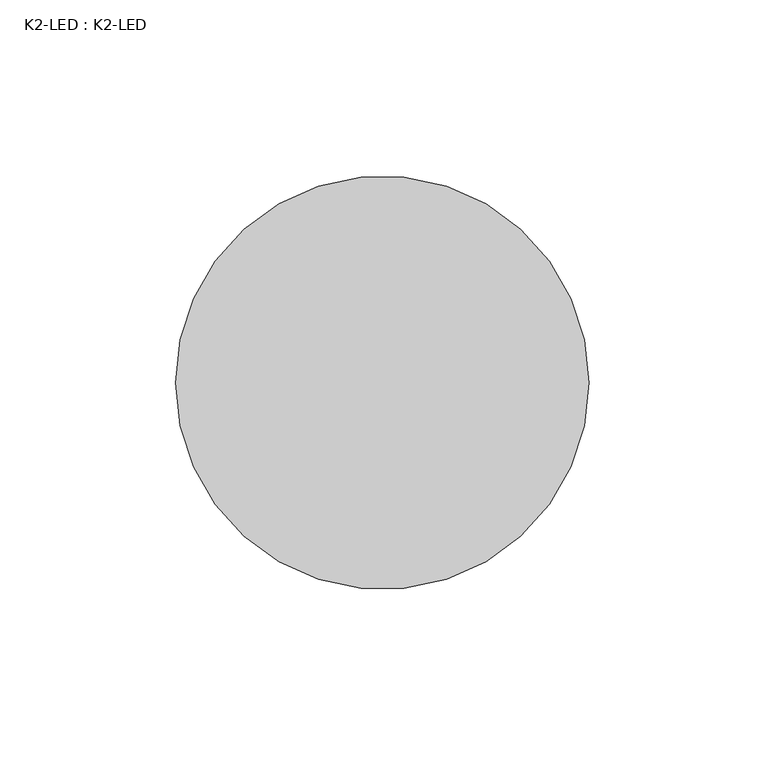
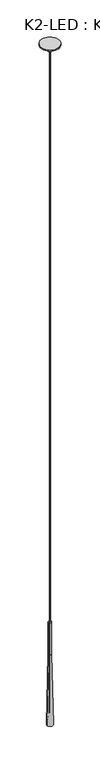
"""IFC4 building model written with IfcOpenShell, lengths in millimetres: light fixture geometry, K2-LED : K2-LED."""

from ifc_helpers import new_model, si_unit, point, frame, origin, origin_2d, place, context, project, spatial, polyline, circle_curve, ellipse_curve, trimmed, segment, composite_curve, outline, extrude, source, transform, mapped, element, save
from ifc_brep_helpers import plane_surface, cylinder_surface, revolved_surface, advanced_brep


def k2_led_k2_led_75b36184(model_context):
    return source(origin(), model_context, "Body", "SolidModel", [
        extrude(outline(composite_curve([segment(trimmed(circle_curve(origin_2d(), 3.175), [point((-3.175, 0.0))], [point((3.175, 0.0))], False, "CARTESIAN"), True, "CONTINUOUS"), segment(trimmed(circle_curve(origin_2d(), 3.175), [point((3.175, 0.0))], [point((-3.175, 0.0))], False, "CARTESIAN"), True, "CONTINUOUS")], self_intersect=False)), frame((0.0, 0.0, -1854.2), z_axis=(0.0, 0.0, 1.0), x_axis=(1.0, 0.0, 0.0)), (0.0, 0.0, 1.0), 4241.8),
        advanced_brep(
        [(-3.2496917, 0.0, -1828.8), (3.2496917, 0.0, -1828.8), (17.692089, 0.0, -1917.7), (-17.692089, 0.0, -1917.7), (-14.4423973, 0.0, -1917.7), (14.4423973, 0.0, -1917.7), (0.0, 0.0, -1828.8), (0.0, 0.0, -1828.8)],
        [
            (0, 1, circle_curve(frame((0.0, 0.0, -1828.8), z_axis=(0.0, 0.0, -1.0), x_axis=(1.0, 0.0, 0.0)), 3.2496917)),
            (1, 2),
            (2, 3, circle_curve(frame((0.0, 0.0, -1917.7), z_axis=(0.0, 0.0, 1.0), x_axis=(1.0, 0.0, 0.0)), 17.692089)),
            (3, 0),
            (1, 0, circle_curve(frame((0.0, 0.0, -1828.8), z_axis=(0.0, 0.0, -1.0), x_axis=(1.0, 0.0, 0.0)), 3.2496917)),
            (3, 2, circle_curve(frame((0.0, 0.0, -1917.7), z_axis=(0.0, 0.0, 1.0), x_axis=(1.0, 0.0, 0.0)), 17.692089)),
            (4, 5, circle_curve(frame((0.0, 0.0, -1917.7), z_axis=(0.0, 0.0, -1.0), x_axis=(1.0, 0.0, 0.0)), 14.4423973)),
            (5, 6),
            (6, 4),
            (5, 4, circle_curve(frame((0.0, 0.0, -1917.7), z_axis=(0.0, 0.0, -1.0), x_axis=(1.0, 0.0, 0.0)), 14.4423973)),
            (2, 5),
            (4, 3),
            (7, 1),
            (0, 7),
        ],
        [
            revolved_surface(polyline([(17.692089, 0.0, -1917.7), (3.2496917, 0.0, -1828.8)]), (0.0, 0.0, -1930.4), (0.0, 0.0, 1.0)),
            revolved_surface(polyline([(0.0, 0.0, -1828.8), (14.4423973, 0.0, -1917.7)]), (0.0, 0.0, -1930.4), (0.0, 0.0, 1.0)),
            plane_surface(frame((0.0, 0.0, -1917.7), z_axis=(0.0, 0.0, -1.0), x_axis=(1.0, 0.0, 0.0))),
            plane_surface(frame((0.0, 0.0, -1828.8), z_axis=(0.0, 0.0, 1.0), x_axis=(1.0, 0.0, 0.0))),
        ],
        [
            (0, [[1, 2, 3, 4]]),
            (0, [[5, -4, 6, -2]]),
            (1, [[7, 8, 9]]),
            (1, [[10, -9, -8]]),
            (2, [[-3, 11, -7, 12]]),
            (2, [[-6, -12, -10, -11]]),
            (3, [[13, -1, 14]]),
            (3, [[-14, -5, -13]]),
        ],
    ),
        advanced_brep(
        [(-9.525, 0.0, -1481.7266408), (9.525, 0.0, -1481.7266408), (19.05, 0.0, -1930.4), (-19.05, 0.0, -1930.4), (-9.525, 0.0, -1276.35), (9.525, 0.0, -1276.35), (-3.175, 0.0, -1270.0), (3.175, 0.0, -1270.0), (-3.175, 0.0, -1332.2025521), (3.175, 0.0, -1332.2025521), (15.8742846, 0.0, -1930.4), (-15.8742846, 0.0, -1930.4)],
        [
            (0, 1, circle_curve(frame((0.0, 0.0, -1481.7266408), z_axis=(0.0, 0.0, -1.0), x_axis=(1.0, 0.0, 0.0)), 9.525)),
            (1, 2),
            (2, 3, circle_curve(frame((0.0, 0.0, -1930.4), z_axis=(0.0, 0.0, 1.0), x_axis=(1.0, 0.0, 0.0)), 19.05)),
            (3, 0),
            (1, 0, circle_curve(frame((0.0, 0.0, -1481.7266408), z_axis=(0.0, 0.0, -1.0), x_axis=(1.0, 0.0, 0.0)), 9.525)),
            (3, 2, circle_curve(frame((0.0, 0.0, -1930.4), z_axis=(0.0, 0.0, 1.0), x_axis=(1.0, 0.0, 0.0)), 19.05)),
            (4, 5, circle_curve(frame((0.0, 0.0, -1276.35), z_axis=(0.0, 0.0, -1.0), x_axis=(1.0, 0.0, 0.0)), 9.525)),
            (5, 1),
            (0, 4),
            (5, 4, circle_curve(frame((0.0, 0.0, -1276.35), z_axis=(0.0, 0.0, -1.0), x_axis=(1.0, 0.0, 0.0)), 9.525)),
            (6, 7, circle_curve(frame((0.0, 0.0, -1270.0), z_axis=(0.0, 0.0, -1.0), x_axis=(1.0, 0.0, 0.0)), 3.175)),
            (7, 5, circle_curve(frame((3.175, 0.0, -1276.35), z_axis=(0.0, 1.0, 0.0), x_axis=(1.0, 0.0, 0.0)), 6.35)),
            (4, 6, circle_curve(frame((-3.175, 0.0, -1276.35), z_axis=(0.0, 1.0, 0.0), x_axis=(-1.0, 0.0, 0.0)), 6.35)),
            (7, 6, circle_curve(frame((0.0, 0.0, -1270.0), z_axis=(0.0, 0.0, -1.0), x_axis=(1.0, 0.0, 0.0)), 3.175)),
            (8, 9, circle_curve(frame((0.0, 0.0, -1332.2025521), z_axis=(0.0, 0.0, -1.0), x_axis=(1.0, 0.0, 0.0)), 3.175)),
            (9, 7),
            (6, 8),
            (9, 8, circle_curve(frame((0.0, 0.0, -1332.2025521), z_axis=(0.0, 0.0, -1.0), x_axis=(1.0, 0.0, 0.0)), 3.175)),
            (2, 10),
            (10, 11, circle_curve(frame((0.0, 0.0, -1930.4), z_axis=(0.0, 0.0, 1.0), x_axis=(1.0, 0.0, 0.0)), 15.8742846)),
            (11, 3),
            (11, 10, circle_curve(frame((0.0, 0.0, -1930.4), z_axis=(0.0, 0.0, 1.0), x_axis=(1.0, 0.0, 0.0)), 15.8742846)),
            (10, 9),
            (8, 11),
        ],
        [
            revolved_surface(polyline([(19.05, 0.0, -1930.4), (9.525, 0.0, -1481.7266408)]), (0.0, 0.0, -1930.4), (0.0, 0.0, 1.0)),
            cylinder_surface(frame((0.0, 0.0, -1930.4), z_axis=(0.0, 0.0, 1.0), x_axis=(1.0, 0.0, 0.0)), 9.525),
            revolved_surface(trimmed(ellipse_curve(frame((3.175, 0.0, -1276.35), z_axis=(0.0, -1.0, 0.0), x_axis=(1.0, 0.0, 0.0)), 6.35, 6.35), [point((9.525, 0.0, -1276.35))], [point((3.175, 0.0, -1270.0))], True, "CARTESIAN"), (0.0, 0.0, -1930.4), (0.0, 0.0, 1.0)),
            revolved_surface(polyline([(3.175, 0.0, -1270.0), (3.175, 0.0, -1332.2025521)]), (0.0, 0.0, -1930.4), (0.0, 0.0, 1.0)),
            plane_surface(frame((0.0, 0.0, -1930.4), z_axis=(0.0, 0.0, -1.0), x_axis=(1.0, 0.0, 0.0))),
            revolved_surface(polyline([(3.175, 0.0, -1332.2025521), (15.8742846, 0.0, -1930.4)]), (0.0, 0.0, -1930.4), (0.0, 0.0, 1.0)),
        ],
        [
            (0, [[1, 2, 3, 4]]),
            (0, [[5, -4, 6, -2]]),
            (1, [[7, 8, -1, 9]]),
            (1, [[10, -9, -5, -8]]),
            (2, [[11, 12, -7, 13]]),
            (2, [[14, -13, -10, -12]]),
            (3, [[15, 16, -11, 17]]),
            (3, [[18, -17, -14, -16]]),
            (4, [[-3, 19, 20, 21]]),
            (4, [[-6, -21, 22, -19]]),
            (5, [[-20, 23, -15, 24]]),
            (5, [[-22, -24, -18, -23]]),
        ],
    ),
        advanced_brep(
        [(-58.7375, 0.0, 2438.4), (58.7375, 0.0, 2438.4), (-6.35, 0.0, 2387.6), (6.35, 0.0, 2387.6), (6.35, 0.0, 2432.05), (-6.35, 0.0, 2432.05), (-58.7375, 0.0, 2432.05), (58.7375, 0.0, 2432.05)],
        [
            (0, 1, circle_curve(frame((0.0, 0.0, 2438.4), z_axis=(0.0, 0.0, 1.0), x_axis=(1.0, 0.0, 0.0)), 58.7375)),
            (1, 0, circle_curve(frame((0.0, 0.0, 2438.4), z_axis=(0.0, 0.0, 1.0), x_axis=(1.0, 0.0, 0.0)), 58.7375)),
            (2, 3, circle_curve(frame((0.0, 0.0, 2387.6), z_axis=(0.0, 0.0, -1.0), x_axis=(1.0, 0.0, 0.0)), 6.35)),
            (3, 2, circle_curve(frame((0.0, 0.0, 2387.6), z_axis=(0.0, 0.0, -1.0), x_axis=(1.0, 0.0, 0.0)), 6.35)),
            (3, 4),
            (4, 5, circle_curve(frame((0.0, 0.0, 2432.05), z_axis=(0.0, 0.0, -1.0), x_axis=(1.0, 0.0, 0.0)), 6.35)),
            (5, 2),
            (5, 4, circle_curve(frame((0.0, 0.0, 2432.05), z_axis=(0.0, 0.0, -1.0), x_axis=(1.0, 0.0, 0.0)), 6.35)),
            (6, 7, circle_curve(frame((0.0, 0.0, 2432.05), z_axis=(0.0, 0.0, -1.0), x_axis=(1.0, 0.0, 0.0)), 58.7375)),
            (7, 6, circle_curve(frame((0.0, 0.0, 2432.05), z_axis=(0.0, 0.0, -1.0), x_axis=(1.0, 0.0, 0.0)), 58.7375)),
            (7, 1),
            (0, 6),
        ],
        [
            plane_surface(frame((6.35, 0.0, 2438.4), z_axis=(0.0, 0.0, 1.0), x_axis=(0.0, 1.0, 0.0))),
            plane_surface(frame((6.35, 0.0, 2387.6), z_axis=(0.0, 0.0, -1.0), x_axis=(0.0, -1.0, 0.0))),
            cylinder_surface(frame((0.0, 0.0, 2387.6), z_axis=(0.0, 0.0, 1.0), x_axis=(1.0, 0.0, 0.0)), 6.35),
            plane_surface(frame((58.7375, 0.0, 2432.05), z_axis=(0.0, 0.0, -1.0), x_axis=(0.0, -1.0, 0.0))),
            cylinder_surface(frame((0.0, 0.0, 2432.05), z_axis=(0.0, 0.0, 1.0), x_axis=(1.0, 0.0, 0.0)), 58.7375),
        ],
        [
            (0, [[1, 2]]),
            (1, [[3, 4]]),
            (2, [[-4, 5, 6, 7]]),
            (2, [[-3, -7, 8, -5]]),
            (3, [[9, 10], [-6, -8]]),
            (4, [[-10, 11, -1, 12]]),
            (4, [[-9, -12, -2, -11]]),
        ],
    ),
    ])


if __name__ == "__main__":
    model = new_model("IFC4")
    model_context = context("Model", 3, world=origin())
    ifc_project = project(units=[si_unit("LENGTHUNIT", "METRE", prefix="MILLI")], contexts=[model_context])
    site = spatial("IfcSite", under=ifc_project)
    building = spatial("IfcBuilding", under=site)
    placement = place(None, origin())
    k2_led_k2_led_shape = k2_led_k2_led_75b36184(model_context)
    element("IfcLightFixture", 1, ObjectType="K2-LED : K2-LED", at=placement, inside=building, context=model_context, shape_type="MappedRepresentation", body=[
        mapped(k2_led_k2_led_shape, transform((0.0, 0.0, 0.0), x_axis=(1.0, 0.0, 0.0), y_axis=(0.0, 1.0, 0.0), z_axis=(0.0, 0.0, 1.0))),
    ])
    save(model, "model.ifc")
